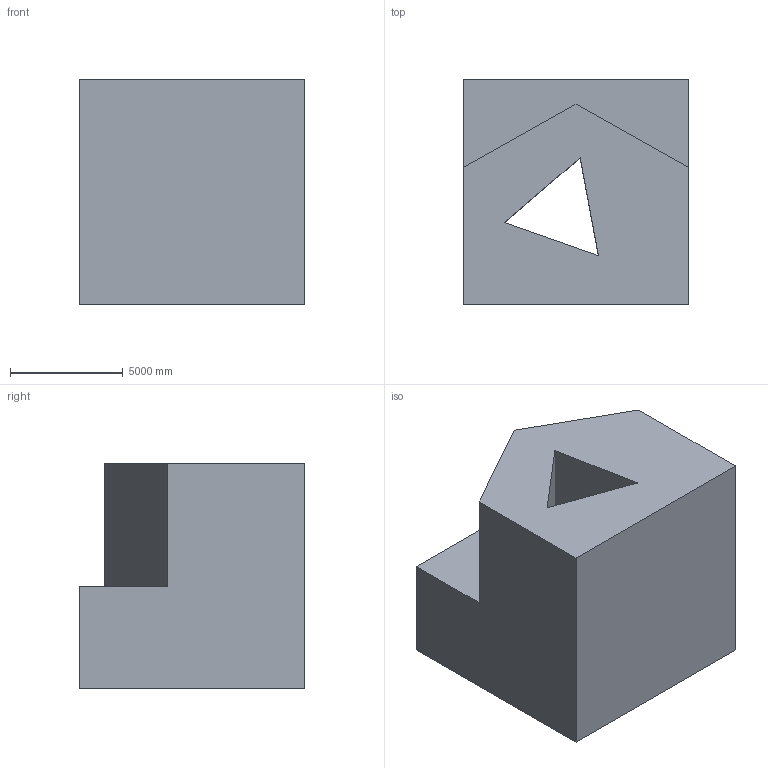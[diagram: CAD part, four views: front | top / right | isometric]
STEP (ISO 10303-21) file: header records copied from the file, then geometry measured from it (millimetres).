
FILE_DESCRIPTION (( 'STEP AP203' ), '1' );
FILE_NAME ('178.STEP', '2022-07-28T13:49:26', ( 'user' ), ( '' ), 'SwSTEP 2.0', 'SolidWorks 2021', '' );
FILE_SCHEMA (( 'CONFIG_CONTROL_DESIGN' ));
Length unit declared in the file: centimetre
Products named in the file (1): 178
Bounding box: 10000 x 10000 x 10000 mm (x, y, z)
Volume: 777152628538.5 mm3; surface area: 680925372.3 mm2
Topology: 1 solids, 1 shells, 12 faces, 30 edges, 20 vertices
Faces by surface type: plane 12
Entity records: 435 total; most frequent: CARTESIAN_POINT 63, ORIENTED_EDGE 60, DIRECTION 56, EDGE_CURVE 30, VECTOR 30, LINE 30, VERTEX_POINT 20, EDGE_LOOP 14
